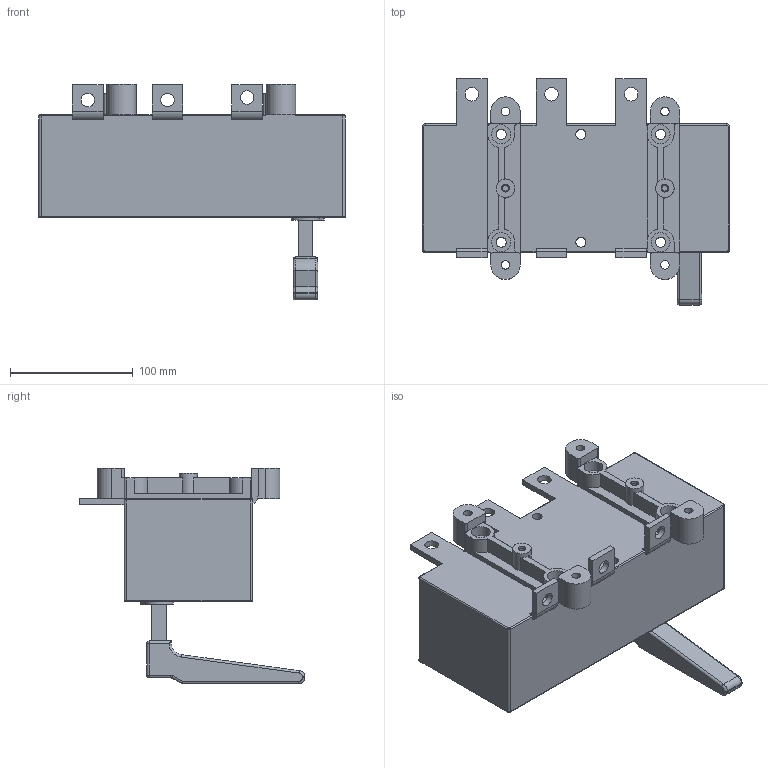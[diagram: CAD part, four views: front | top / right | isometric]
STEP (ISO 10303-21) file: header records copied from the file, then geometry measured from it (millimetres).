
FILE_DESCRIPTION(/* description */ (''),/* implementation_level */ '2;1');
FILE_NAME(/* name */ 'RA630 P3 A-R.stp',/* time_stamp */ '2021-08-19T08:10:30+02:00',/* author */ (''),/* organization */ (''),/* preprocessor_version */ 'ST-DEVELOPER v18.1',/* originating_system */ 'SIEMENS PLM Software NX 1965',/* authorisation */ '');
FILE_SCHEMA (('AUTOMOTIVE_DESIGN { 1 0 10303 214 3 1 1 1 }'));
Length unit declared in the file: millimetre
Products named in the file (1): RA630 P3 A-R_stp
Bounding box: 250 x 184.15 x 176 mm (x, y, z)
Volume: 2333832.8 mm3; surface area: 172215.4 mm2
Topology: 1 solids, 1 shells, 245 faces, 636 edges, 402 vertices
Faces by surface type: cylinder 115, plane 108, torus 13, sphere 6, bspline 3
Full cylindrical faces by diameter (mm): 4.8 x2, 6.2 x2, 7 x4, 8.2 x6, 11 x6, 14 x4, 15 x2, 15.5 x4
Entity records: 7421 total; most frequent: DIRECTION 1328, CARTESIAN_POINT 1317, ORIENTED_EDGE 1192, EDGE_CURVE 596, AXIS2_PLACEMENT_3D 493, VERTEX_POINT 398, LINE 342, VECTOR 342
